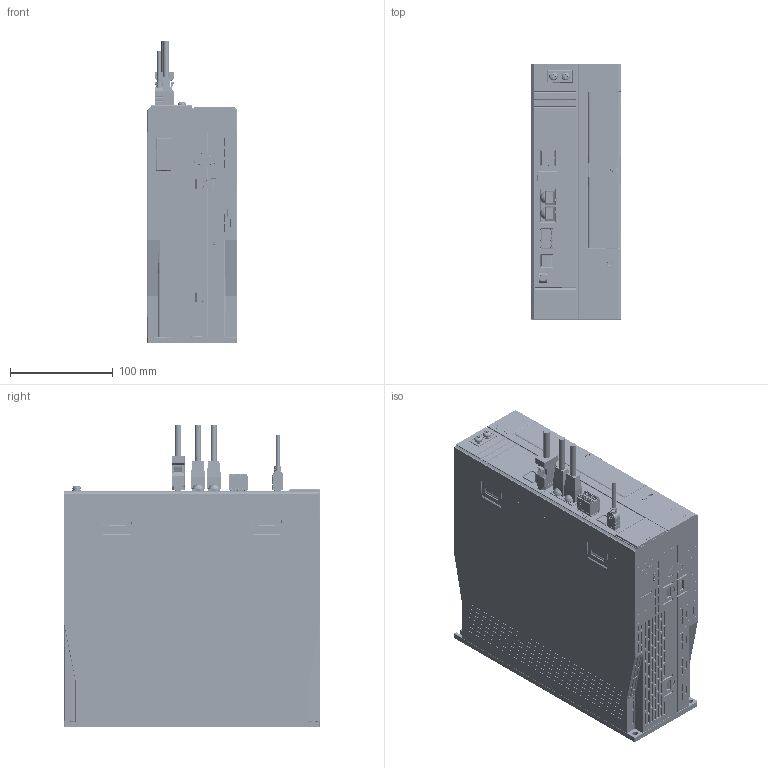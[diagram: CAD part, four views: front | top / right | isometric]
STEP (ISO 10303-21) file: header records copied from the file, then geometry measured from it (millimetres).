
FILE_DESCRIPTION(('CATIA V5 STEP Exchange'),'2;1');
FILE_NAME('F:\【001】项目\【002】受控库---【管理者：文控员】\[★]官网图+渲染用图--外观3D图纸\【001】伺服产品线\【3】DS5系列\【7】DS5C1\DS5C1-45P5+47P5-PTA-官网图\DS5C1-45P5-PTA-官网图-231026.stp','2023-10-26T11:25:38+00:00',('none'),('none'),'CATIA Version 5 Release 20 GA (IN-10)','CATIA V5 STEP AP203','none');
FILE_SCHEMA(('CONFIG_CONTROL_DESIGN'));
Products named in the file (1): DS5C1-45P5-PTA-官网图-231026_stp
Assembly tree (3 placements, depth 2):
  DS5C1-45P5-PTA-官网图-231026_stp
    #58
    #7754
    #16045
Bounding box: 87 x 249.88 x 294.45 mm (x, y, z)
Volume: 34078 mm3; surface area: 300326.4 mm2
Topology: 6 solids, 22310 shells, 27235 faces, 141495 edges, 136222 vertices
Faces by surface type: plane 15758, bspline 6636, cylinder 2535, extrusion 1561, sphere 378, cone 227, torus 136, revolution 4
Entity records: 1560900 total; most frequent: CARTESIAN_POINT 593083, ORIENTED_EDGE 152905, EDGE_CURVE 141123, VERTEX_POINT 136243, DIRECTION 128451, VECTOR 85108, LINE 83547, B_SPLINE_CURVE_WITH_KNOTS 53196
